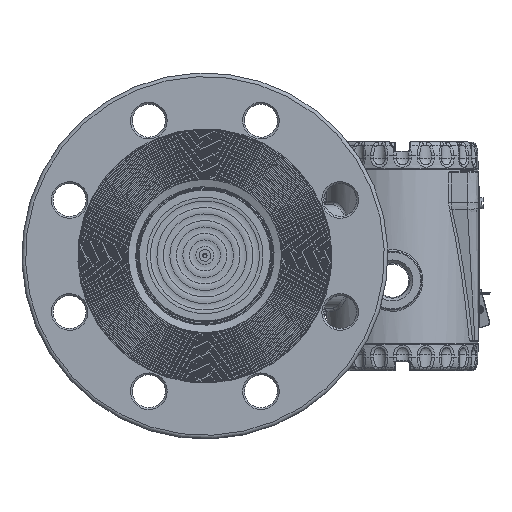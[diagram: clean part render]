
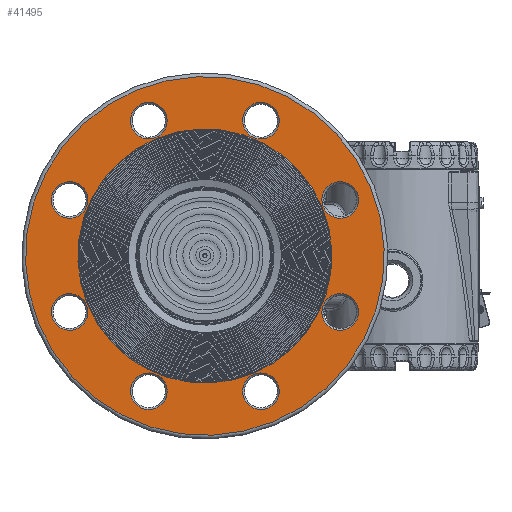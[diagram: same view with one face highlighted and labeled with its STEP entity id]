
A CAD part, top view. The second image highlights one B-rep face of the part: STEP entity #41495.
In plain terms, the highlighted planar face has unit normal (0, 0, 1).
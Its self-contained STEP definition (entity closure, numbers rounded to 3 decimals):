
#676=FACE_BOUND('',#6858,.T.);
#677=FACE_BOUND('',#6859,.T.);
#678=FACE_BOUND('',#6860,.T.);
#679=FACE_BOUND('',#6861,.T.);
#680=FACE_BOUND('',#6862,.T.);
#681=FACE_BOUND('',#6863,.T.);
#682=FACE_BOUND('',#6864,.T.);
#683=FACE_BOUND('',#6865,.T.);
#684=FACE_BOUND('',#6866,.T.);
#2696=PLANE('',#46062);
#4091=FACE_OUTER_BOUND('',#6857,.T.);
#6857=EDGE_LOOP('',(#31527));
#6858=EDGE_LOOP('',(#31528));
#6859=EDGE_LOOP('',(#31529));
#6860=EDGE_LOOP('',(#31530));
#6861=EDGE_LOOP('',(#31531));
#6862=EDGE_LOOP('',(#31532));
#6863=EDGE_LOOP('',(#31533));
#6864=EDGE_LOOP('',(#31534));
#6865=EDGE_LOOP('',(#31535));
#6866=EDGE_LOOP('',(#31536,#31537));
#13629=CIRCLE('',#46057,69.4);
#13633=CIRCLE('',#46061,69.4);
#13634=CIRCLE('',#46063,98.);
#13635=CIRCLE('',#46064,10.);
#13636=CIRCLE('',#46065,10.);
#13637=CIRCLE('',#46066,10.);
#13638=CIRCLE('',#46067,10.);
#13639=CIRCLE('',#46068,10.);
#13640=CIRCLE('',#46069,10.);
#13641=CIRCLE('',#46070,10.);
#13642=CIRCLE('',#46071,10.);
#18168=VERTEX_POINT('',#73243);
#18169=VERTEX_POINT('',#73244);
#18172=VERTEX_POINT('',#73253);
#18173=VERTEX_POINT('',#73255);
#18174=VERTEX_POINT('',#73257);
#18175=VERTEX_POINT('',#73259);
#18176=VERTEX_POINT('',#73261);
#18177=VERTEX_POINT('',#73263);
#18178=VERTEX_POINT('',#73265);
#18179=VERTEX_POINT('',#73267);
#18180=VERTEX_POINT('',#73269);
#22929=EDGE_CURVE('',#18168,#18169,#13629,.T.);
#22933=EDGE_CURVE('',#18169,#18168,#13633,.T.);
#22934=EDGE_CURVE('',#18172,#18172,#13634,.T.);
#22935=EDGE_CURVE('',#18173,#18173,#13635,.T.);
#22936=EDGE_CURVE('',#18174,#18174,#13636,.T.);
#22937=EDGE_CURVE('',#18175,#18175,#13637,.T.);
#22938=EDGE_CURVE('',#18176,#18176,#13638,.T.);
#22939=EDGE_CURVE('',#18177,#18177,#13639,.T.);
#22940=EDGE_CURVE('',#18178,#18178,#13640,.T.);
#22941=EDGE_CURVE('',#18179,#18179,#13641,.T.);
#22942=EDGE_CURVE('',#18180,#18180,#13642,.T.);
#31527=ORIENTED_EDGE('',*,*,#22934,.F.);
#31528=ORIENTED_EDGE('',*,*,#22935,.F.);
#31529=ORIENTED_EDGE('',*,*,#22936,.F.);
#31530=ORIENTED_EDGE('',*,*,#22937,.F.);
#31531=ORIENTED_EDGE('',*,*,#22938,.F.);
#31532=ORIENTED_EDGE('',*,*,#22939,.F.);
#31533=ORIENTED_EDGE('',*,*,#22940,.F.);
#31534=ORIENTED_EDGE('',*,*,#22941,.F.);
#31535=ORIENTED_EDGE('',*,*,#22942,.F.);
#31536=ORIENTED_EDGE('',*,*,#22929,.F.);
#31537=ORIENTED_EDGE('',*,*,#22933,.F.);
#41495=ADVANCED_FACE('',(#4091,#676,#677,#678,#679,#680,#681,#682,#683,
#684),#2696,.T.);
#46057=AXIS2_PLACEMENT_3D('',#73245,#54202,#54203);
#46061=AXIS2_PLACEMENT_3D('',#73251,#54210,#54211);
#46062=AXIS2_PLACEMENT_3D('',#73252,#54212,#54213);
#46063=AXIS2_PLACEMENT_3D('',#73254,#54214,#54215);
#46064=AXIS2_PLACEMENT_3D('',#73256,#54216,#54217);
#46065=AXIS2_PLACEMENT_3D('',#73258,#54218,#54219);
#46066=AXIS2_PLACEMENT_3D('',#73260,#54220,#54221);
#46067=AXIS2_PLACEMENT_3D('',#73262,#54222,#54223);
#46068=AXIS2_PLACEMENT_3D('',#73264,#54224,#54225);
#46069=AXIS2_PLACEMENT_3D('',#73266,#54226,#54227);
#46070=AXIS2_PLACEMENT_3D('',#73268,#54228,#54229);
#46071=AXIS2_PLACEMENT_3D('',#73270,#54230,#54231);
#54202=DIRECTION('center_axis',(0.,0.,1.));
#54203=DIRECTION('ref_axis',(-1.,0.,0.));
#54210=DIRECTION('center_axis',(0.,0.,1.));
#54211=DIRECTION('ref_axis',(-1.,0.,0.));
#54212=DIRECTION('center_axis',(0.,0.,1.));
#54213=DIRECTION('ref_axis',(1.,0.,0.));
#54214=DIRECTION('center_axis',(0.,0.,-1.));
#54215=DIRECTION('ref_axis',(-1.,0.,0.));
#54216=DIRECTION('center_axis',(0.,0.,1.));
#54217=DIRECTION('ref_axis',(0.,1.,0.));
#54218=DIRECTION('center_axis',(0.,0.,1.));
#54219=DIRECTION('ref_axis',(1.,0.,0.));
#54220=DIRECTION('center_axis',(0.,0.,1.));
#54221=DIRECTION('ref_axis',(-1.,0.,0.));
#54222=DIRECTION('center_axis',(0.,0.,1.));
#54223=DIRECTION('ref_axis',(0.707,-0.707,0.));
#54224=DIRECTION('center_axis',(0.,0.,1.));
#54225=DIRECTION('ref_axis',(0.,-1.,0.));
#54226=DIRECTION('center_axis',(0.,0.,1.));
#54227=DIRECTION('ref_axis',(-0.707,-0.707,0.));
#54228=DIRECTION('center_axis',(0.,0.,1.));
#54229=DIRECTION('ref_axis',(0.707,0.707,0.));
#54230=DIRECTION('center_axis',(0.,0.,1.));
#54231=DIRECTION('ref_axis',(-0.707,0.707,0.));
#73243=CARTESIAN_POINT('',(69.4,0.,21.));
#73244=CARTESIAN_POINT('',(-69.4,0.,21.));
#73245=CARTESIAN_POINT('Origin',(0.,0.,21.));
#73251=CARTESIAN_POINT('Origin',(0.,0.,21.));
#73252=CARTESIAN_POINT('Origin',(0.,0.,
21.));
#73253=CARTESIAN_POINT('',(98.,0.,21.));
#73254=CARTESIAN_POINT('Origin',(0.,0.,21.));
#73255=CARTESIAN_POINT('',(80.,-10.,21.));
#73256=CARTESIAN_POINT('Origin',(80.,0.,21.));
#73257=CARTESIAN_POINT('',(-10.,-80.,21.));
#73258=CARTESIAN_POINT('Origin',(0.,-80.,21.));
#73259=CARTESIAN_POINT('',(10.,80.,21.));
#73260=CARTESIAN_POINT('Origin',(0.,80.,21.));
#73261=CARTESIAN_POINT('',(-63.64,-49.497,21.));
#73262=CARTESIAN_POINT('Origin',(-56.569,-56.569,21.));
#73263=CARTESIAN_POINT('',(-80.,10.,21.));
#73264=CARTESIAN_POINT('Origin',(-80.,0.,21.));
#73265=CARTESIAN_POINT('',(-49.497,63.64,21.));
#73266=CARTESIAN_POINT('Origin',(-56.569,56.569,21.));
#73267=CARTESIAN_POINT('',(49.497,-63.64,21.));
#73268=CARTESIAN_POINT('Origin',(56.569,-56.569,21.));
#73269=CARTESIAN_POINT('',(63.64,49.497,21.));
#73270=CARTESIAN_POINT('Origin',(56.569,56.569,21.));
